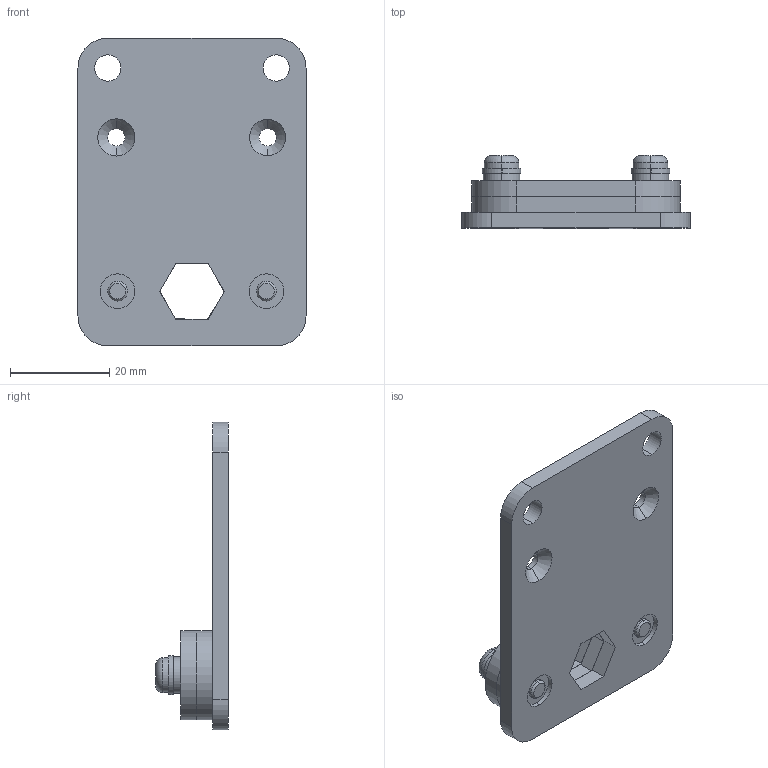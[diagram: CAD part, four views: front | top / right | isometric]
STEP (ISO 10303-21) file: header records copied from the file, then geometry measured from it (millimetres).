
FILE_DESCRIPTION (( 'STEP AP203' ), '1' );
FILE_NAME ('WA-605.STEP', '2022-10-31T05:33:32', ( '' ), ( '' ), 'SwSTEP 2.0', 'SolidWorks 2017', '' );
FILE_SCHEMA (( 'CONFIG_CONTROL_DESIGN' ));
Length unit declared in the file: millimetre
Products named in the file (5): SPアダプター602; ターミナルプレート 600; SPアダプター601; M4x12ナベ小P2; WA-605
Assembly tree (5 placements, depth 2):
  WA-605
    ターミナルプレート 600
    SPアダプター601
    SPアダプター602
    M4x12ナベ小P2  x2
Bounding box: 46 x 14.7 x 62 mm (x, y, z)
Volume: 12376.2 mm3; surface area: 10579.4 mm2
Topology: 5 solids, 5 shells, 174 faces, 432 edges, 282 vertices
Faces by surface type: plane 90, cylinder 72, cone 8, torus 4
Entity records: 4725 total; most frequent: CARTESIAN_POINT 769, DIRECTION 750, ORIENTED_EDGE 674, EDGE_CURVE 337, AXIS2_PLACEMENT_3D 282, VERTEX_POINT 221, LINE 186, VECTOR 186
